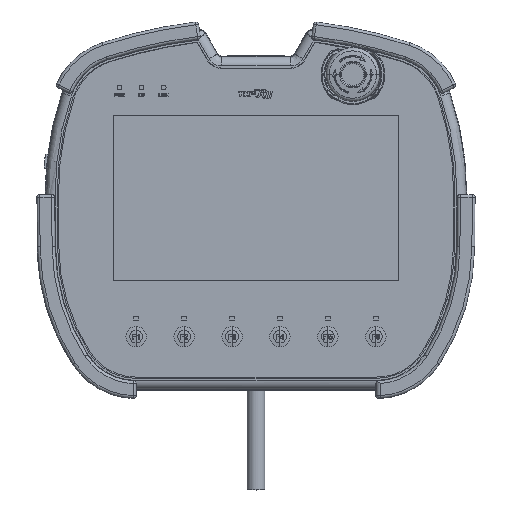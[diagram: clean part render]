
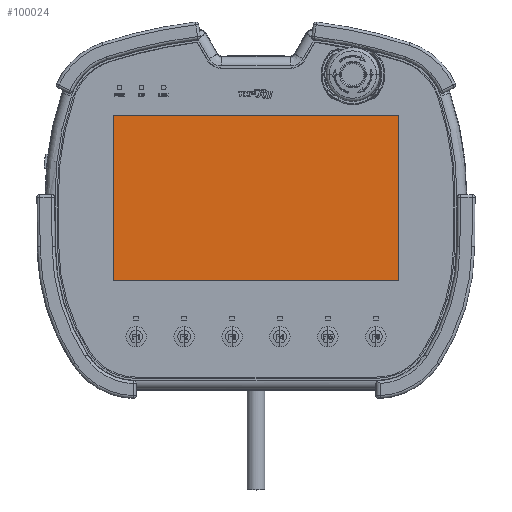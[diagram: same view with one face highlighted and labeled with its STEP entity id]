
A CAD part, top view. The second image highlights one B-rep face of the part: STEP entity #100024.
In plain terms, the highlighted planar face has unit normal (0, 0, 1).
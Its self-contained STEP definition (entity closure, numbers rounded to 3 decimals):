
#28908=DIRECTION('',(1.,0.,0.));
#28909=VECTOR('',#28908,154.);
#28910=CARTESIAN_POINT('',(-77.,-46.8,0.15));
#28911=LINE('',#28910,#28909);
#28912=DIRECTION('',(0.,1.,0.));
#28913=VECTOR('',#28912,89.6);
#28914=CARTESIAN_POINT('',(-77.,-46.8,0.15));
#28915=LINE('',#28914,#28913);
#28916=DIRECTION('',(1.,0.,0.));
#28917=VECTOR('',#28916,154.);
#28918=CARTESIAN_POINT('',(-77.,42.8,0.15));
#28919=LINE('',#28918,#28917);
#28920=DIRECTION('',(0.,-1.,0.));
#28921=VECTOR('',#28920,89.6);
#28922=CARTESIAN_POINT('',(77.,42.8,0.15));
#28923=LINE('',#28922,#28921);
#53423=CARTESIAN_POINT('',(-77.,-46.8,0.15));
#53425=VERTEX_POINT('',#53423);
#53427=CARTESIAN_POINT('',(-77.,42.8,0.15));
#53429=VERTEX_POINT('',#53427);
#53431=CARTESIAN_POINT('',(77.,-46.8,0.15));
#53433=VERTEX_POINT('',#53431);
#53435=CARTESIAN_POINT('',(77.,42.8,0.15));
#53437=VERTEX_POINT('',#53435);
#100011=CARTESIAN_POINT('',(0.,-2.05,0.15));
#100012=DIRECTION('',(0.,0.,1.));
#100013=DIRECTION('',(1.,0.,0.));
#100014=AXIS2_PLACEMENT_3D('',#100011,#100012,#100013);
#100015=PLANE('',#100014);
#100016=ORIENTED_EDGE('',*,*,#100003,.F.);
#100017=ORIENTED_EDGE('',*,*,#99992,.T.);
#100019=ORIENTED_EDGE('',*,*,#100018,.T.);
#100021=ORIENTED_EDGE('',*,*,#100020,.T.);
#100022=EDGE_LOOP('',(#100016,#100017,#100019,#100021));
#100023=FACE_OUTER_BOUND('',#100022,.F.);
#100024=ADVANCED_FACE('',(#100023),#100015,.T.);
#99992=EDGE_CURVE('',#53425,#53429,#28915,.T.);
#100003=EDGE_CURVE('',#53425,#53433,#28911,.T.);
#100018=EDGE_CURVE('',#53429,#53437,#28919,.T.);
#100020=EDGE_CURVE('',#53437,#53433,#28923,.T.);
